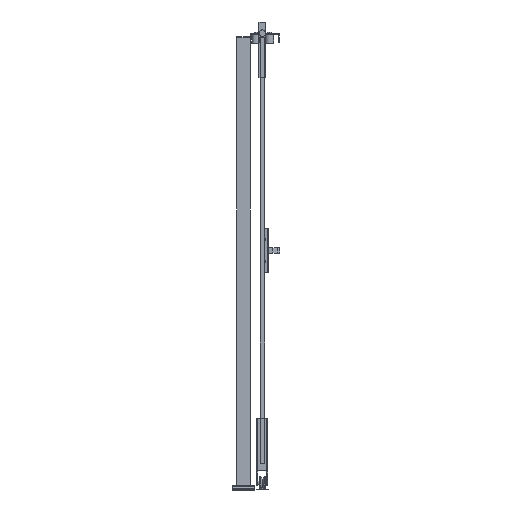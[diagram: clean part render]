
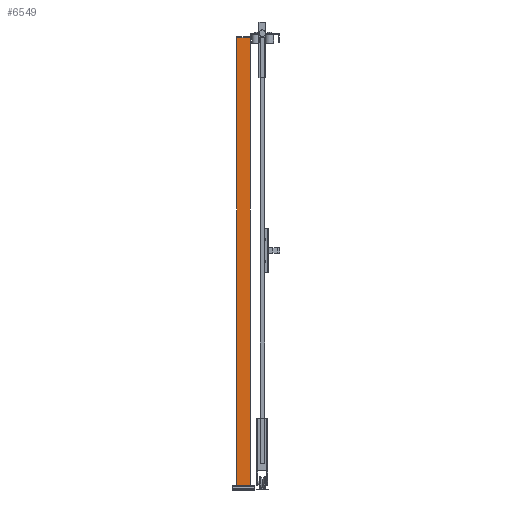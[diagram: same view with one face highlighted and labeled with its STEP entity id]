
A CAD part, left-side view. The second image highlights one B-rep face of the part: STEP entity #6549.
In plain terms, the highlighted planar face has unit normal (-1, 0, 0) as drawn and (0, 1, 0) by its records, which use the part's own axes.
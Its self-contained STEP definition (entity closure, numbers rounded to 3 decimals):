
#663=FACE_OUTER_BOUND('',#1135,.T.);
#1135=EDGE_LOOP('',(#4013,#4014,#4015,#4016));
#1672=VERTEX_POINT('',#12887);
#1673=VERTEX_POINT('',#12889);
#1675=VERTEX_POINT('',#12895);
#1678=VERTEX_POINT('',#12900);
#2628=EDGE_CURVE('',#1672,#1673,#7405,.T.);
#2634=EDGE_CURVE('',#1678,#1675,#7411,.T.);
#2637=EDGE_CURVE('',#1673,#1678,#7414,.T.);
#2638=EDGE_CURVE('',#1672,#1675,#7415,.T.);
#4013=ORIENTED_EDGE('',*,*,#2638,.T.);
#4014=ORIENTED_EDGE('',*,*,#2634,.F.);
#4015=ORIENTED_EDGE('',*,*,#2637,.F.);
#4016=ORIENTED_EDGE('',*,*,#2628,.F.);
#6141=PLANE('',#9362);
#6549=ADVANCED_FACE('',(#663),#6141,.F.);
#7405=LINE('',#12890,#8426);
#7411=LINE('',#12902,#8432);
#7414=LINE('',#12907,#8435);
#7415=LINE('',#12909,#8436);
#8426=VECTOR('',#10290,1.);
#8432=VECTOR('',#10298,1.);
#8435=VECTOR('',#10305,1.);
#8436=VECTOR('',#10308,1.);
#9362=AXIS2_PLACEMENT_3D('',#12908,#10306,#10307);
#10290=DIRECTION('',(-1.,0.,0.));
#10298=DIRECTION('',(1.,0.,0.));
#10305=DIRECTION('',(0.,0.,-1.));
#10306=DIRECTION('center_axis',(0.,-1.,0.));
#10307=DIRECTION('ref_axis',(0.,0.,-1.));
#10308=DIRECTION('',(0.,0.,-1.));
#12887=CARTESIAN_POINT('',(30.,30.,2020.));
#12889=CARTESIAN_POINT('',(-30.,30.,2020.));
#12890=CARTESIAN_POINT('',(0.,30.,2020.));
#12895=CARTESIAN_POINT('',(30.,30.,20.));
#12900=CARTESIAN_POINT('',(-30.,30.,20.));
#12902=CARTESIAN_POINT('',(0.,30.,20.));
#12907=CARTESIAN_POINT('',(-30.,30.,1020.));
#12908=CARTESIAN_POINT('Origin',(0.,30.,
1020.));
#12909=CARTESIAN_POINT('',(30.,30.,1020.));
